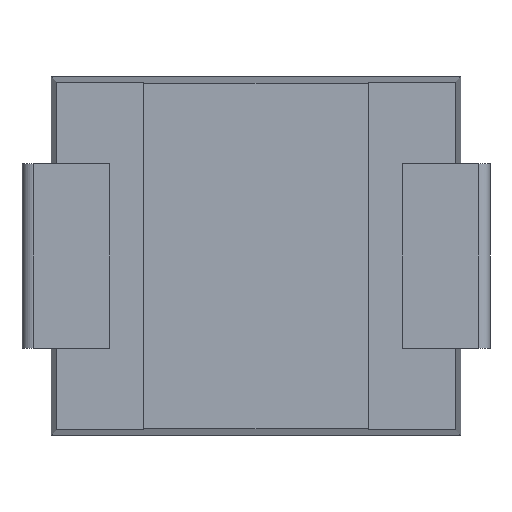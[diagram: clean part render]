
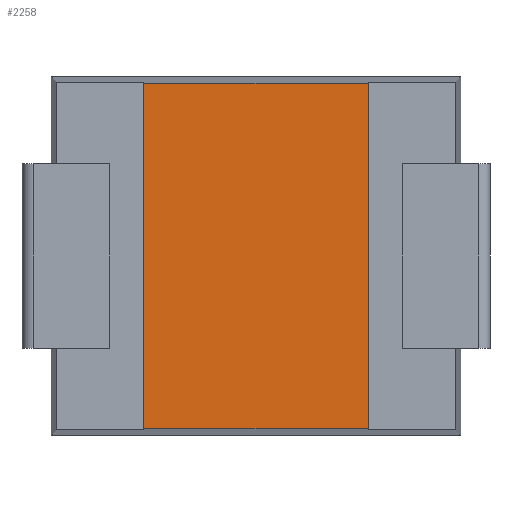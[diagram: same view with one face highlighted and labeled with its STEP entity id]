
A CAD part, front view. The second image highlights one B-rep face of the part: STEP entity #2258.
In plain terms, the highlighted planar face has unit normal (0, -1, 0).
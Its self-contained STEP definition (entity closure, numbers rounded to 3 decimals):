
#59 = DIRECTION ( 'NONE',  ( 0., 0., 1. ) ) ;
#133 = CARTESIAN_POINT ( 'NONE',  ( 0., -1.209, -3.004 ) ) ;
#165 = DIRECTION ( 'NONE',  ( 1., 0., 0. ) ) ;
#276 = EDGE_LOOP ( 'NONE', ( #1414, #1648, #1544, #2301 ) ) ;
#296 = VECTOR ( 'NONE', #165, 1000. ) ;
#469 = VECTOR ( 'NONE', #1146, 1000. ) ;
#547 = LINE ( 'NONE', #133, #469 ) ;
#588 = DIRECTION ( 'NONE',  ( 0., 1., 0. ) ) ;
#622 = CARTESIAN_POINT ( 'NONE',  ( 0., -1.209, 3.004 ) ) ;
#649 = EDGE_CURVE ( 'NONE', #1005, #866, #1536, .T. ) ;
#749 = DIRECTION ( 'NONE',  ( 0., 0., 1. ) ) ;
#773 = CARTESIAN_POINT ( 'NONE',  ( 0., -1.209, 0. ) ) ;
#843 = VERTEX_POINT ( 'NONE', #1402 ) ;
#866 = VERTEX_POINT ( 'NONE', #1910 ) ;
#1005 = VERTEX_POINT ( 'NONE', #1569 ) ;
#1092 = EDGE_CURVE ( 'NONE', #1005, #843, #2463, .T. ) ;
#1146 = DIRECTION ( 'NONE',  ( -1., 0., 0. ) ) ;
#1155 = FACE_OUTER_BOUND ( 'NONE', #276, .T. ) ;
#1197 = EDGE_CURVE ( 'NONE', #1814, #843, #1264, .T. ) ;
#1264 = LINE ( 'NONE', #2066, #2375 ) ;
#1391 = AXIS2_PLACEMENT_3D ( 'NONE', #773, #588, #749 ) ;
#1402 = CARTESIAN_POINT ( 'NONE',  ( 1.949, -1.209, 3.004 ) ) ;
#1414 = ORIENTED_EDGE ( 'NONE', *, *, #1092, .F. ) ;
#1454 = CARTESIAN_POINT ( 'NONE',  ( 1.949, -1.209, -3.004 ) ) ;
#1536 = LINE ( 'NONE', #1782, #2633 ) ;
#1544 = ORIENTED_EDGE ( 'NONE', *, *, #1564, .F. ) ;
#1564 = EDGE_CURVE ( 'NONE', #1814, #866, #547, .T. ) ;
#1569 = CARTESIAN_POINT ( 'NONE',  ( -1.949, -1.209, 3.004 ) ) ;
#1648 = ORIENTED_EDGE ( 'NONE', *, *, #649, .T. ) ;
#1782 = CARTESIAN_POINT ( 'NONE',  ( -1.949, -1.209, 0. ) ) ;
#1814 = VERTEX_POINT ( 'NONE', #1454 ) ;
#1910 = CARTESIAN_POINT ( 'NONE',  ( -1.949, -1.209, -3.004 ) ) ;
#2066 = CARTESIAN_POINT ( 'NONE',  ( 1.949, -1.209, 0. ) ) ;
#2191 = DIRECTION ( 'NONE',  ( 0., 0., -1. ) ) ;
#2202 = PLANE ( 'NONE',  #1391 ) ;
#2258 = ADVANCED_FACE ( 'NONE', ( #1155 ), #2202, .F. ) ;
#2301 = ORIENTED_EDGE ( 'NONE', *, *, #1197, .T. ) ;
#2375 = VECTOR ( 'NONE', #59, 1000. ) ;
#2463 = LINE ( 'NONE', #622, #296 ) ;
#2633 = VECTOR ( 'NONE', #2191, 1000. ) ;
